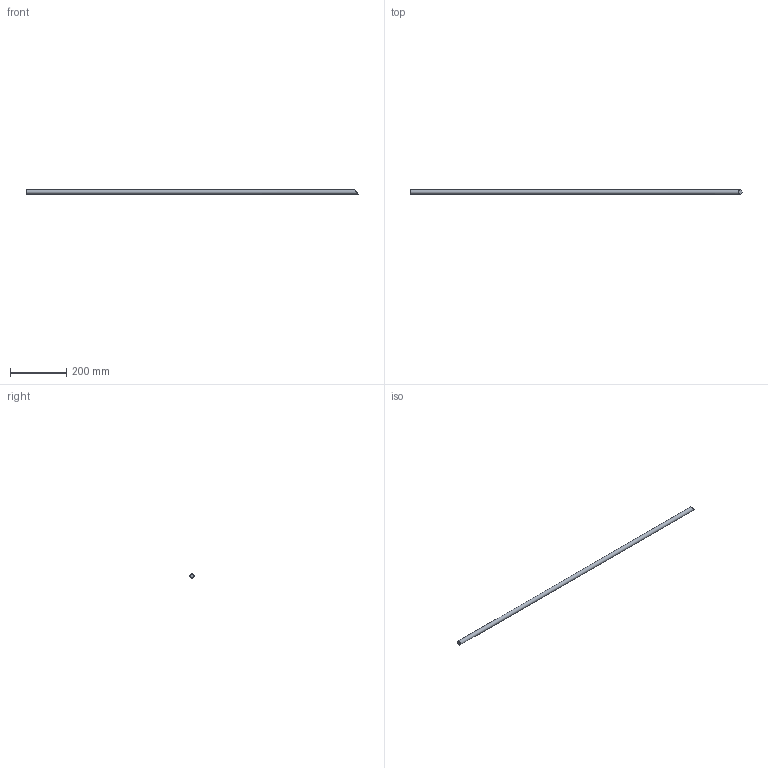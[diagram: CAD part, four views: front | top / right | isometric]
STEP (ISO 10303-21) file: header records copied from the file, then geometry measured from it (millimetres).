
FILE_DESCRIPTION(/* description */ (''),/* implementation_level */ '2;1');
FILE_NAME(/* name */ 'Pos112-Massieve as 15-S235JRG2-1st',/* time_stamp */ '2024-08-06T13:49:48+02:00',/* author */ (''),/* organization */ (''),/* preprocessor_version */ 'ST-DEVELOPER v16.5',/* originating_system */ 'HiCAD 2024 2901.2 Build 361',/* authorisation */ '');
FILE_SCHEMA (('AUTOMOTIVE_DESIGN { 1 0 10303 214 1 1 1 1 }'));
Length unit declared in the file: millimetre
Products named in the file (1): Pos112-Massieve as 15-S235JRG2-1st
Bounding box: 1180.49 x 15 x 15 mm (x, y, z)
Volume: 207538.4 mm3; surface area: 55747.7 mm2
Topology: 1 solids, 1 shells, 3 faces, 3 edges, 2 vertices
Faces by surface type: plane 2, cylinder 1
Full cylindrical faces by diameter (mm): 15 x1
Entity records: 92 total; most frequent: DIRECTION 10, CARTESIAN_POINT 7, PRESENTATION_STYLE_ASSIGNMENT 5, COLOUR_RGB 5, AXIS2_PLACEMENT_3D 5, DRAUGHTING_PRE_DEFINED_CURVE_FONT 4, CURVE_STYLE 4, OVER_RIDING_STYLED_ITEM 4
